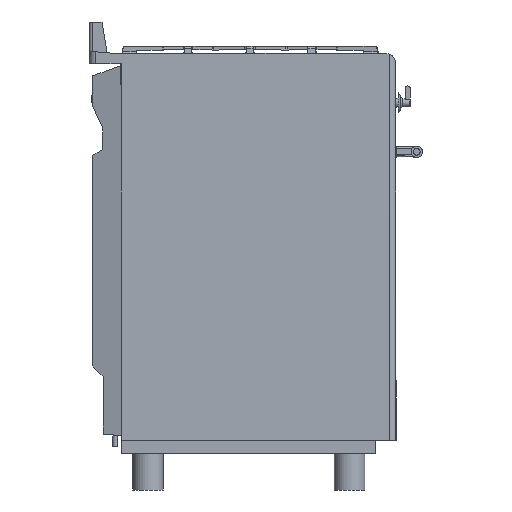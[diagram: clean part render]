
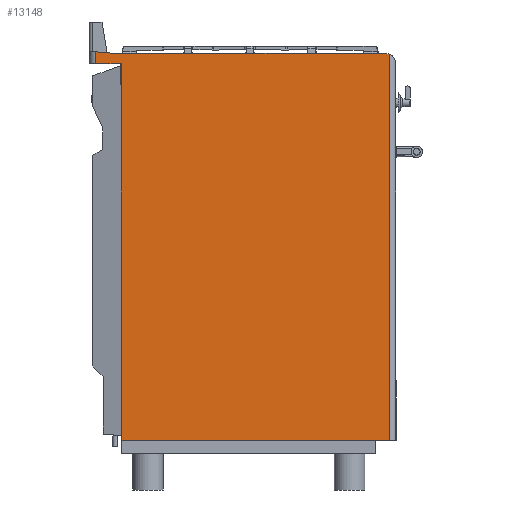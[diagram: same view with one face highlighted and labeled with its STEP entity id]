
A CAD part, front view. The second image highlights one B-rep face of the part: STEP entity #13148.
In plain terms, the highlighted planar face has unit normal (0, -1, 0).
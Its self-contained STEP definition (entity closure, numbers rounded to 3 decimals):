
#1113=CIRCLE('',#16974,20.);
#1852=ORIENTED_EDGE('',*,*,#5626,.T.);
#1853=ORIENTED_EDGE('',*,*,#5604,.T.);
#1854=ORIENTED_EDGE('',*,*,#5514,.T.);
#1855=ORIENTED_EDGE('',*,*,#5512,.T.);
#1856=ORIENTED_EDGE('',*,*,#5502,.F.);
#1857=ORIENTED_EDGE('',*,*,#5493,.F.);
#1858=ORIENTED_EDGE('',*,*,#5625,.F.);
#1859=ORIENTED_EDGE('',*,*,#5627,.T.);
#5493=EDGE_CURVE('',#7455,#7456,#8794,.T.);
#5502=EDGE_CURVE('',#7456,#7460,#8800,.T.);
#5512=EDGE_CURVE('',#7467,#7460,#8807,.T.);
#5514=EDGE_CURVE('',#7468,#7467,#8809,.T.);
#5604=EDGE_CURVE('',#7533,#7468,#1113,.T.);
#5625=EDGE_CURVE('',#7545,#7455,#8877,.T.);
#5626=EDGE_CURVE('',#7546,#7533,#8878,.T.);
#5627=EDGE_CURVE('',#7545,#7546,#8879,.T.);
#7455=VERTEX_POINT('',#22477);
#7456=VERTEX_POINT('',#22479);
#7460=VERTEX_POINT('',#22494);
#7467=VERTEX_POINT('',#22514);
#7468=VERTEX_POINT('',#22518);
#7533=VERTEX_POINT('',#22740);
#7545=VERTEX_POINT('',#22796);
#7546=VERTEX_POINT('',#22800);
#8794=LINE('',#22478,#9833);
#8800=LINE('',#22493,#9839);
#8807=LINE('',#22513,#9846);
#8809=LINE('',#22517,#9848);
#8877=LINE('',#22797,#9916);
#8878=LINE('',#22799,#9917);
#8879=LINE('',#22801,#9918);
#9833=VECTOR('',#18475,1000.);
#9839=VECTOR('',#18491,1000.);
#9846=VECTOR('',#18510,1000.);
#9848=VECTOR('',#18514,1000.);
#9916=VECTOR('',#18734,1000.);
#9917=VECTOR('',#18737,1000.);
#9918=VECTOR('',#18738,1000.);
#10903=EDGE_LOOP('',(#1852,#1853,#1854,#1855,#1856,#1857,#1858,#1859));
#11866=FACE_BOUND('',#10903,.T.);
#12749=PLANE('',#16980);
#13148=ADVANCED_FACE('',(#11866),#12749,.T.);
#16974=AXIS2_PLACEMENT_3D('',#22739,#18708,#18709);
#16980=AXIS2_PLACEMENT_3D('',#22798,#18735,#18736);
#18475=DIRECTION('',(-1.,0.,0.));
#18491=DIRECTION('',(0.,0.,1.));
#18510=DIRECTION('',(-0.996,0.,0.087));
#18514=DIRECTION('',(-1.,0.,0.));
#18708=DIRECTION('',(0.,-1.,0.));
#18709=DIRECTION('',(-0.707,0.,-0.707));
#18734=DIRECTION('',(0.,0.,1.));
#18735=DIRECTION('',(0.,-1.,0.));
#18736=DIRECTION('',(-1.,0.,0.));
#18737=DIRECTION('',(0.,0.,1.));
#18738=DIRECTION('',(1.,0.,0.));
#22477=CARTESIAN_POINT('',(-499.211,482.014,550.39));
#22478=CARTESIAN_POINT('',(19.789,482.014,550.39));
#22479=CARTESIAN_POINT('',(-548.211,482.014,550.39));
#22493=CARTESIAN_POINT('',(-548.211,482.014,550.39));
#22494=CARTESIAN_POINT('',(-548.211,482.014,573.714));
#22513=CARTESIAN_POINT('',(-510.211,482.014,570.39));
#22514=CARTESIAN_POINT('',(-510.211,482.014,570.39));
#22517=CARTESIAN_POINT('',(11.789,482.014,570.39));
#22518=CARTESIAN_POINT('',(11.789,482.014,570.39));
#22739=CARTESIAN_POINT('',(11.789,482.014,550.39));
#22740=CARTESIAN_POINT('',(19.789,482.014,568.72));
#22796=CARTESIAN_POINT('',(-499.211,482.014,-177.61));
#22797=CARTESIAN_POINT('',(-499.211,482.014,-177.61));
#22798=CARTESIAN_POINT('',(-499.211,482.014,-177.61));
#22799=CARTESIAN_POINT('',(19.789,482.014,-177.61));
#22800=CARTESIAN_POINT('',(19.789,482.014,-177.61));
#22801=CARTESIAN_POINT('',(-499.211,482.014,-177.61));
